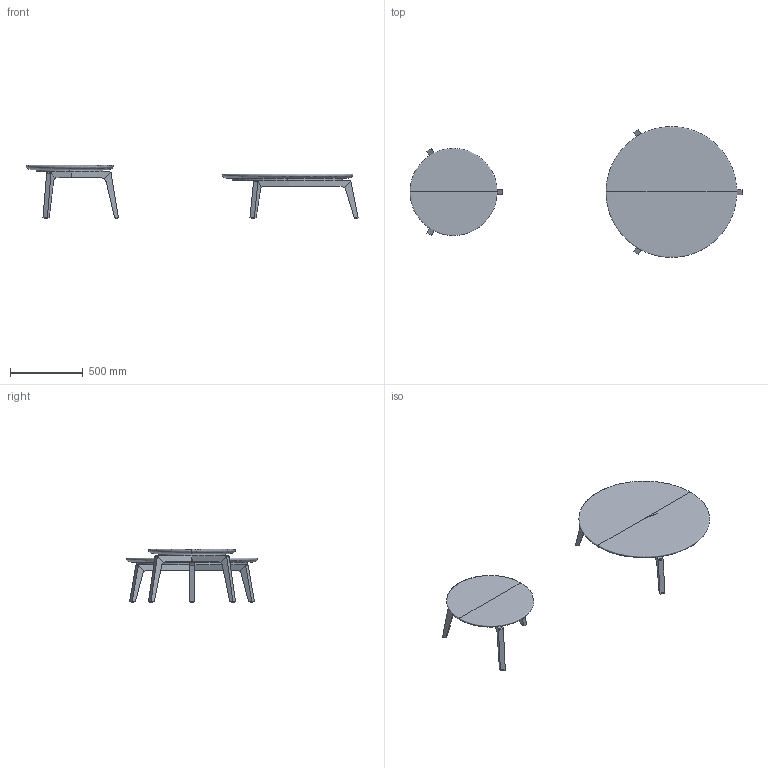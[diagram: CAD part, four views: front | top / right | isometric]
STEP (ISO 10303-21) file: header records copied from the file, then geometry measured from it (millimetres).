
FILE_DESCRIPTION(/* description */ (''),/* implementation_level */ '2;1');
FILE_NAME(/* name */ 'TRUE_Tod_3D',/* time_stamp */ '2025-05-16T11:55:48+02:00',/* author */ (''),/* organization */ (''),/* preprocessor_version */ 'ST-DEVELOPER v16.5',/* originating_system */ '',/* authorisation */ '');
FILE_SCHEMA (('CONFIG_CONTROL_DESIGN'));
Length unit declared in the file: millimetre
Products named in the file (1): Document
Bounding box: 2286 x 900 x 366 mm (x, y, z)
Volume: 39910282.6 mm3; surface area: 3800566.4 mm2
Topology: 37 solids, 37 shells, 402 faces, 867 edges, 527 vertices
Faces by surface type: plane 184, cylinder 118, bspline 100
Entity records: 10567 total; most frequent: CARTESIAN_POINT 4711, ORIENTED_EDGE 1682, EDGE_CURVE 841, VERTEX_POINT 527, B_SPLINE_CURVE_WITH_KNOTS 466, EDGE_LOOP 434, ADVANCED_FACE 402, FACE_OUTER_BOUND 402
